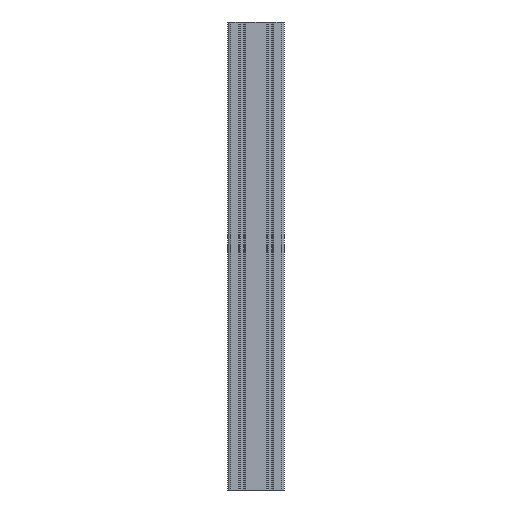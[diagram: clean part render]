
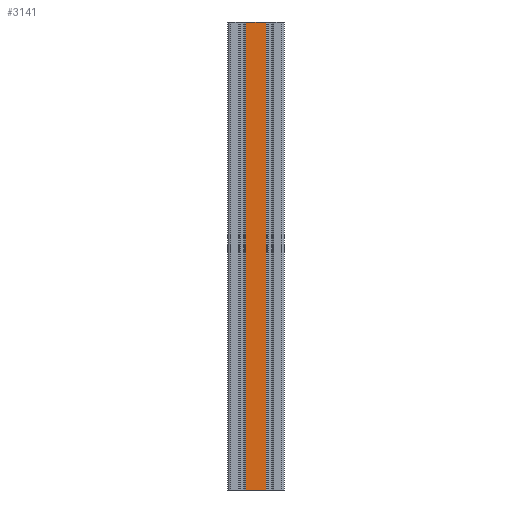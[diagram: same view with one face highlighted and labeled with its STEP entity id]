
A CAD part, front view. The second image highlights one B-rep face of the part: STEP entity #3141.
In plain terms, the highlighted planar face has unit normal (0, -1, 0).
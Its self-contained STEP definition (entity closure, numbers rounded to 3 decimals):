
#49 = EDGE_CURVE ( 'NONE', #1951, #4274, #1539, .T. ) ;
#169 = DIRECTION ( 'NONE',  ( 0., -1., 0. ) ) ;
#179 = LINE ( 'NONE', #1424, #3840 ) ;
#213 = EDGE_LOOP ( 'NONE', ( #3349, #1945, #1211, #3526 ) ) ;
#340 = CARTESIAN_POINT ( 'NONE',  ( -10.9, -15., -250. ) ) ;
#393 = EDGE_CURVE ( 'NONE', #4274, #1551, #2947, .T. ) ;
#749 = CARTESIAN_POINT ( 'NONE',  ( 10.9, -15., 250. ) ) ;
#884 = LINE ( 'NONE', #2193, #3475 ) ;
#1021 = DIRECTION ( 'NONE',  ( 1., 0., 0. ) ) ;
#1038 = FACE_OUTER_BOUND ( 'NONE', #213, .T. ) ;
#1211 = ORIENTED_EDGE ( 'NONE', *, *, #3865, .F. ) ;
#1385 = DIRECTION ( 'NONE',  ( -1., 0., 0. ) ) ;
#1424 = CARTESIAN_POINT ( 'NONE',  ( -30., -15., 250. ) ) ;
#1470 = DIRECTION ( 'NONE',  ( 0., 0., 1. ) ) ;
#1500 = DIRECTION ( 'NONE',  ( 1., 0., 0. ) ) ;
#1539 = LINE ( 'NONE', #3352, #3400 ) ;
#1551 = VERTEX_POINT ( 'NONE', #2482 ) ;
#1945 = ORIENTED_EDGE ( 'NONE', *, *, #3316, .T. ) ;
#1951 = VERTEX_POINT ( 'NONE', #3221 ) ;
#2118 = CARTESIAN_POINT ( 'NONE',  ( -10.9, -15., -250. ) ) ;
#2193 = CARTESIAN_POINT ( 'NONE',  ( 10.9, -15., -250. ) ) ;
#2482 = CARTESIAN_POINT ( 'NONE',  ( -10.9, -15., 250. ) ) ;
#2527 = VECTOR ( 'NONE', #1470, 1000. ) ;
#2945 = DIRECTION ( 'NONE',  ( 0., 0., 1. ) ) ;
#2947 = LINE ( 'NONE', #2118, #2527 ) ;
#3141 = ADVANCED_FACE ( 'NONE', ( #1038 ), #3143, .T. ) ;
#3143 = PLANE ( 'NONE',  #3899 ) ;
#3221 = CARTESIAN_POINT ( 'NONE',  ( 10.9, -15., -250. ) ) ;
#3316 = EDGE_CURVE ( 'NONE', #1951, #3591, #884, .T. ) ;
#3349 = ORIENTED_EDGE ( 'NONE', *, *, #49, .F. ) ;
#3352 = CARTESIAN_POINT ( 'NONE',  ( -30., -15., -250. ) ) ;
#3400 = VECTOR ( 'NONE', #1385, 1000. ) ;
#3475 = VECTOR ( 'NONE', #2945, 1000. ) ;
#3526 = ORIENTED_EDGE ( 'NONE', *, *, #393, .F. ) ;
#3591 = VERTEX_POINT ( 'NONE', #749 ) ;
#3840 = VECTOR ( 'NONE', #1021, 1000. ) ;
#3865 = EDGE_CURVE ( 'NONE', #1551, #3591, #179, .T. ) ;
#3899 = AXIS2_PLACEMENT_3D ( 'NONE', #4178, #169, #1500 ) ;
#4178 = CARTESIAN_POINT ( 'NONE',  ( -30., -15., -317.082 ) ) ;
#4274 = VERTEX_POINT ( 'NONE', #340 ) ;
